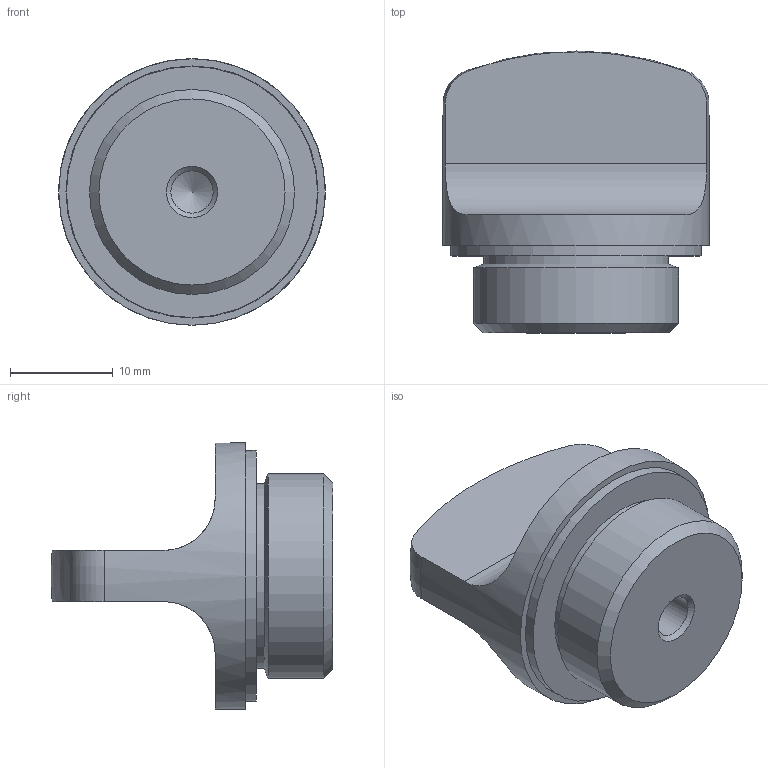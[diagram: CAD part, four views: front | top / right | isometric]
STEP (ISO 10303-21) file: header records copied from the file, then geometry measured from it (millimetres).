
FILE_DESCRIPTION( ( 'STEP AP203' ), '1' );
FILE_NAME( 'C:/Temp/Ganter_Step_05_03_2020/data/3_5/gn441/Threaded plug GN 441-26-M20x1,5-2-BL.stp', '2020-03-12T13:34:54', ( 'License CC BY-ND 4.0' ), ( 'CADENAS' ), ' ', 'PARTsolutions', ' ' );
FILE_SCHEMA( ( 'CONFIG_CONTROL_DESIGN' ) );
Length unit declared in the file: millimetre
Products named in the file (1): _Threaded plug GN 441-26-M20x1,5-2-BL
Bounding box: 26 x 27.5 x 26 mm (x, y, z)
Volume: 6272.7 mm3; surface area: 3385.7 mm2
Topology: 1 solids, 1 shells, 31 faces, 69 edges, 45 vertices
Faces by surface type: cylinder 12, plane 11, cone 5, torus 2, sphere 1
Full cylindrical faces by diameter (mm): 2 x1, 4.134 x1, 18 x1, 18.5 x1, 20 x1, 21.9 x1, 22 x1, 24.5 x1, 24.6 x1, 26 x1
Entity records: 980 total; most frequent: CARTESIAN_POINT 338, DIRECTION 128, ORIENTED_EDGE 92, AXIS2_PLACEMENT_3D 60, EDGE_LOOP 54, EDGE_CURVE 46, FACE_OUTER_BOUND 41, VERTEX_POINT 40
